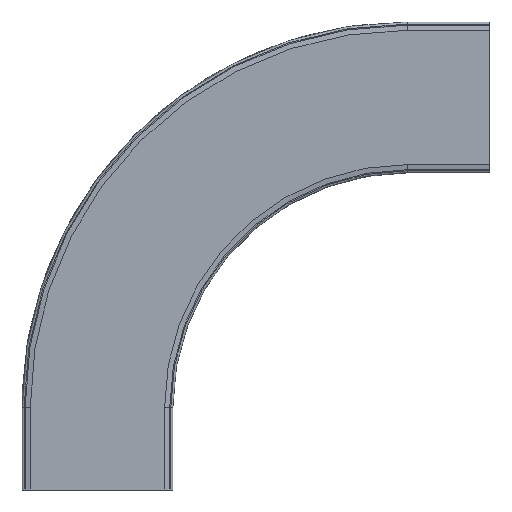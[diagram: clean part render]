
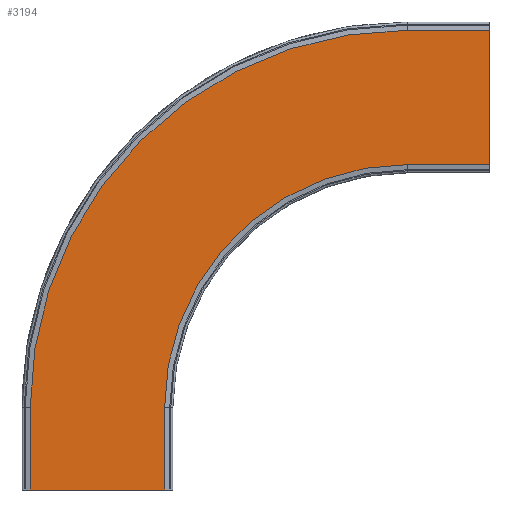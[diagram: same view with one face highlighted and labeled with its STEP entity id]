
A CAD part, front view. The second image highlights one B-rep face of the part: STEP entity #3194.
In plain terms, the highlighted planar face has unit normal (0, -1, 0).
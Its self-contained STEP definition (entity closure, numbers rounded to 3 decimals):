
#131=CIRCLE('',#3392,235.);
#132=CIRCLE('',#3394,365.);
#278=FACE_OUTER_BOUND('',#449,.T.);
#449=EDGE_LOOP('',(#2143,#2144,#2145,#2146,#2147,#2148,#2149,#2150));
#627=LINE('',#4466,#973);
#631=LINE('',#4473,#977);
#642=LINE('',#4506,#988);
#643=LINE('',#4508,#989);
#644=LINE('',#4509,#990);
#645=LINE('',#4510,#991);
#973=VECTOR('',#3632,10.);
#977=VECTOR('',#3638,10.);
#988=VECTOR('',#3669,10.);
#989=VECTOR('',#3670,10.);
#990=VECTOR('',#3671,10.);
#991=VECTOR('',#3672,10.);
#1319=VERTEX_POINT('',#4463);
#1320=VERTEX_POINT('',#4465);
#1322=VERTEX_POINT('',#4471);
#1331=VERTEX_POINT('',#4497);
#1332=VERTEX_POINT('',#4499);
#1333=VERTEX_POINT('',#4503);
#1334=VERTEX_POINT('',#4505);
#1335=VERTEX_POINT('',#4507);
#1635=EDGE_CURVE('',#1320,#1319,#627,.T.);
#1639=EDGE_CURVE('',#1322,#1319,#631,.T.);
#1652=EDGE_CURVE('',#1332,#1331,#131,.T.);
#1654=EDGE_CURVE('',#1333,#1322,#132,.T.);
#1655=EDGE_CURVE('',#1334,#1333,#642,.T.);
#1656=EDGE_CURVE('',#1334,#1335,#643,.T.);
#1657=EDGE_CURVE('',#1335,#1332,#644,.T.);
#1658=EDGE_CURVE('',#1331,#1320,#645,.T.);
#2143=ORIENTED_EDGE('',*,*,#1635,.T.);
#2144=ORIENTED_EDGE('',*,*,#1639,.F.);
#2145=ORIENTED_EDGE('',*,*,#1654,.F.);
#2146=ORIENTED_EDGE('',*,*,#1655,.F.);
#2147=ORIENTED_EDGE('',*,*,#1656,.T.);
#2148=ORIENTED_EDGE('',*,*,#1657,.T.);
#2149=ORIENTED_EDGE('',*,*,#1652,.T.);
#2150=ORIENTED_EDGE('',*,*,#1658,.T.);
#3081=PLANE('',#3393);
#3194=ADVANCED_FACE('',(#278),#3081,.T.);
#3392=AXIS2_PLACEMENT_3D('',#4500,#3662,#3663);
#3393=AXIS2_PLACEMENT_3D('',#4502,#3665,#3666);
#3394=AXIS2_PLACEMENT_3D('',#4504,#3667,#3668);
#3632=DIRECTION('',(0.,0.,1.));
#3638=DIRECTION('',(1.,0.,0.));
#3662=DIRECTION('center_axis',(0.,1.,0.));
#3663=DIRECTION('ref_axis',(-1.,0.,0.));
#3665=DIRECTION('center_axis',(0.,-1.,0.));
#3666=DIRECTION('ref_axis',(-1.,0.,0.));
#3667=DIRECTION('center_axis',(0.,1.,0.));
#3668=DIRECTION('ref_axis',(-1.,0.,0.));
#3669=DIRECTION('',(0.,0.,1.));
#3670=DIRECTION('',(1.,0.,0.));
#3671=DIRECTION('',(0.,0.,1.));
#3672=DIRECTION('',(1.,0.,0.));
#4463=CARTESIAN_POINT('',(419.001,-72.,445.));
#4465=CARTESIAN_POINT('',(419.001,-72.,315.));
#4466=CARTESIAN_POINT('',(419.001,-72.,349.));
#4471=CARTESIAN_POINT('',(339.001,-72.,445.));
#4473=CARTESIAN_POINT('',(-212.238,-72.,445.));
#4497=CARTESIAN_POINT('',(339.001,-72.,315.));
#4499=CARTESIAN_POINT('',(104.001,-72.,80.));
#4500=CARTESIAN_POINT('Origin',(339.001,-72.,80.));
#4502=CARTESIAN_POINT('Origin',(-212.238,-72.,315.));
#4503=CARTESIAN_POINT('',(-25.999,-72.,80.));
#4504=CARTESIAN_POINT('Origin',(339.001,-72.,80.));
#4505=CARTESIAN_POINT('',(-25.999,-72.,0.));
#4506=CARTESIAN_POINT('',(-25.999,-72.,0.));
#4507=CARTESIAN_POINT('',(104.001,-72.,0.));
#4508=CARTESIAN_POINT('',(-25.999,-72.,0.));
#4509=CARTESIAN_POINT('',(104.001,-72.,0.));
#4510=CARTESIAN_POINT('',(-212.238,-72.,315.));
